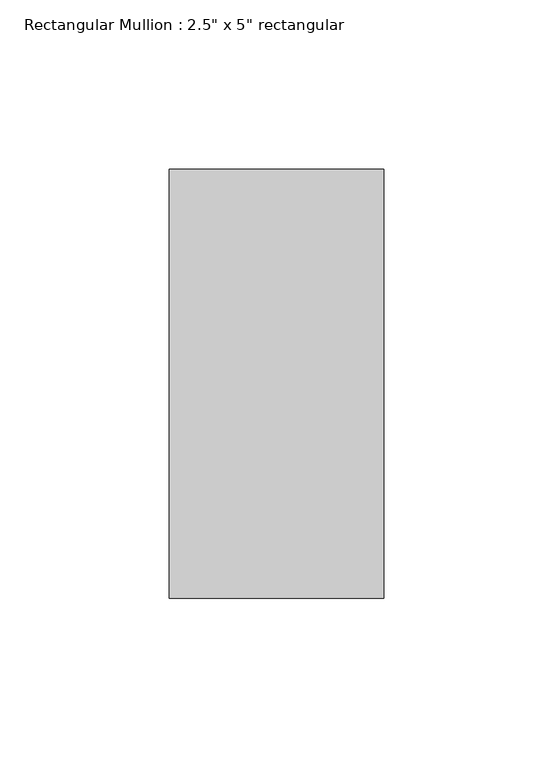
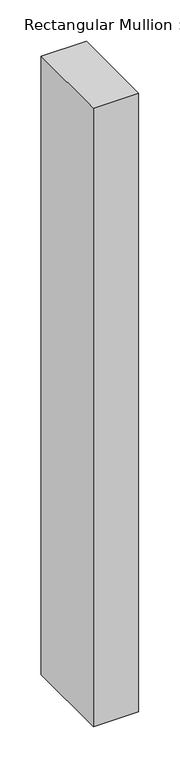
"""IFC4 building model written with IfcOpenShell, lengths in millimetres: member geometry."""

from ifc_helpers import new_model, si_unit, frame, origin, place, context, project, spatial, polyline, outline, extrude, source, transform, mapped, element, save


def member_c723d8bc(model_context):
    return source(origin(), model_context, "Body", "SweptSolid", [
        extrude(outline(polyline([(0.0, 50.8), (0.0, -76.2), (-63.5, -76.2), (-63.5, 50.8), (0.0, 50.8)])), frame((0.0, 0.0, -915.7607143), z_axis=(0.0, 0.0, 1.0), x_axis=(1.0, 0.0, 0.0)), (0.0, 0.0, 1.0), 915.7607143),
    ])


if __name__ == "__main__":
    model = new_model("IFC4")
    model_context = context("Model", 3, world=origin())
    ifc_project = project(units=[si_unit("LENGTHUNIT", "METRE", prefix="MILLI")], contexts=[model_context])
    site = spatial("IfcSite", under=ifc_project)
    building = spatial("IfcBuilding", under=site)
    placement = place(None, origin())
    member_shape = member_c723d8bc(model_context)
    element("IfcMember", 1, ObjectType="Rectangular Mullion : 2.5\" x 5\" rectangular", at=placement, inside=building, context=model_context, shape_type="MappedRepresentation", body=[
        mapped(member_shape, transform((0.0, 0.0, 0.0), x_axis=(1.0, 0.0, 0.0), y_axis=(0.0, 1.0, 0.0), z_axis=(0.0, 0.0, 1.0))),
    ])
    save(model, "model.ifc")
